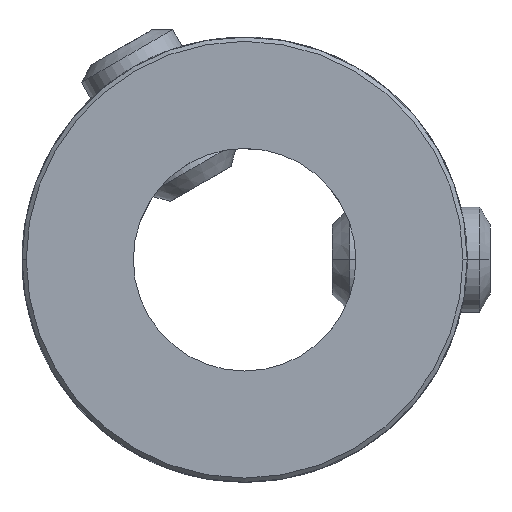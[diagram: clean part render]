
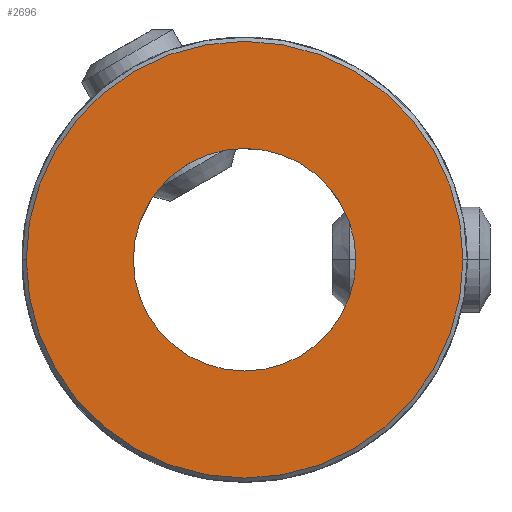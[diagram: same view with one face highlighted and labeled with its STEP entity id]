
A CAD part, front view. The second image highlights one B-rep face of the part: STEP entity #2696.
In plain terms, the highlighted planar face has unit normal (0, -1, 0).
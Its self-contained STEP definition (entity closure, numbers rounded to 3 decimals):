
#1=CARTESIAN_POINT('',(0.,-12.7,0.));
#2=DIRECTION('',(0.,-1.,0.));
#3=DIRECTION('',(-1.,0.,0.));
#4=AXIS2_PLACEMENT_3D('',#1,#2,#3);
#6=CARTESIAN_POINT('',(0.,-12.7,0.));
#7=DIRECTION('',(0.,-1.,0.));
#8=DIRECTION('',(1.,0.,0.));
#9=AXIS2_PLACEMENT_3D('',#6,#7,#8);
#11=CARTESIAN_POINT('',(0.,-12.7,0.));
#12=DIRECTION('',(0.,1.,0.));
#13=DIRECTION('',(1.,0.,0.));
#14=AXIS2_PLACEMENT_3D('',#11,#12,#13);
#16=CARTESIAN_POINT('',(0.,-12.7,0.));
#17=DIRECTION('',(0.,1.,0.));
#18=DIRECTION('',(-1.,0.,0.));
#19=AXIS2_PLACEMENT_3D('',#16,#17,#18);
#2461=CARTESIAN_POINT('',(3.175,-12.7,0.));
#2462=CARTESIAN_POINT('',(-3.175,-12.7,0.));
#2463=VERTEX_POINT('',#2461);
#2464=VERTEX_POINT('',#2462);
#2489=CARTESIAN_POINT('',(-6.23,-12.7,0.));
#2490=CARTESIAN_POINT('',(6.23,-12.7,0.));
#2491=VERTEX_POINT('',#2489);
#2492=VERTEX_POINT('',#2490);
#2679=CARTESIAN_POINT('',(0.,-12.7,0.));
#2680=DIRECTION('',(0.,1.,0.));
#2681=DIRECTION('',(1.,0.,0.));
#2682=AXIS2_PLACEMENT_3D('',#2679,#2680,#2681);
#2683=PLANE('',#2682);
#2685=ORIENTED_EDGE('',*,*,#2684,.F.);
#2687=ORIENTED_EDGE('',*,*,#2686,.F.);
#2688=EDGE_LOOP('',(#2685,#2687));
#2689=FACE_OUTER_BOUND('',#2688,.F.);
#2691=ORIENTED_EDGE('',*,*,#2690,.F.);
#2693=ORIENTED_EDGE('',*,*,#2692,.F.);
#2694=EDGE_LOOP('',(#2691,#2693));
#2695=FACE_BOUND('',#2694,.F.);
#2696=ADVANCED_FACE('',(#2689,#2695),#2683,.F.);
#5=CIRCLE('',#4,6.23);
#10=CIRCLE('',#9,6.23);
#15=CIRCLE('',#14,3.175);
#20=CIRCLE('',#19,3.175);
#2684=EDGE_CURVE('',#2491,#2492,#5,.T.);
#2686=EDGE_CURVE('',#2492,#2491,#10,.T.);
#2690=EDGE_CURVE('',#2463,#2464,#15,.T.);
#2692=EDGE_CURVE('',#2464,#2463,#20,.T.);
